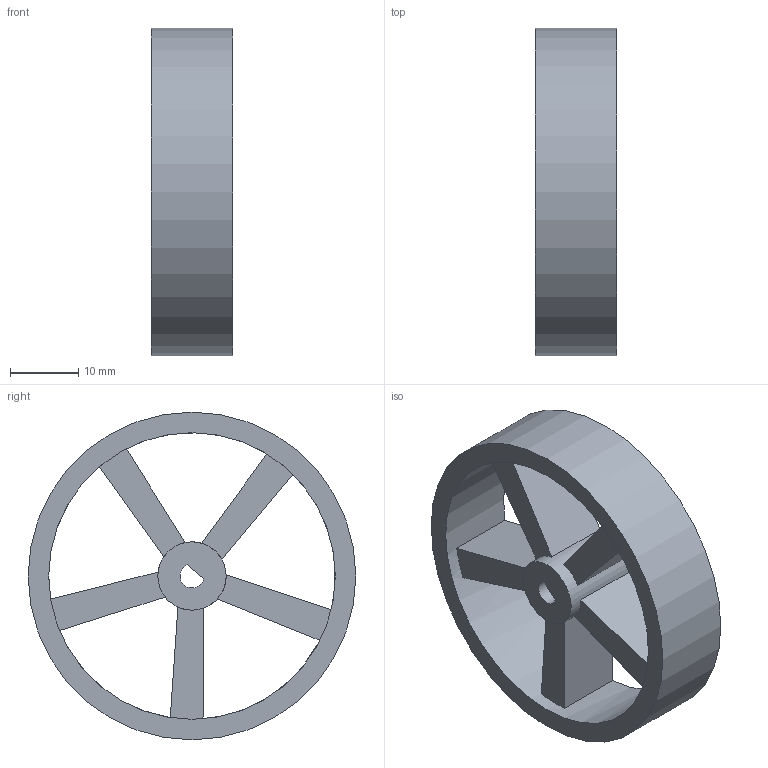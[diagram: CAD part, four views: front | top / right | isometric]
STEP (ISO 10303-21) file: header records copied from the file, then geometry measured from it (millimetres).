
FILE_DESCRIPTION(/* description */ (''),/* implementation_level */ '2;1');
FILE_NAME(/* name */ 'rueda1.step',/* time_stamp */ '2026-03-09T00:25:31+01:00',/* author */ (''),/* organization */ (''),/* preprocessor_version */ 'ST-DEVELOPER v20.1',/* originating_system */ 'Autodesk Translation Framework v14.24.0.0',/* authorisation */ '');
FILE_SCHEMA (('AUTOMOTIVE_DESIGN { 1 0 10303 214 3 1 1 }'));
Length unit declared in the file: millimetre
Products named in the file (1): Flanders (v3~recovered)
Bounding box: 12 x 48 x 48 mm (x, y, z)
Volume: 9401.7 mm3; surface area: 6765 mm2
Topology: 1 solids, 1 shells, 23 faces, 75 edges, 50 vertices
Faces by surface type: plane 19, cylinder 4
Full cylindrical faces by diameter (mm): 10 x1, 42 x1, 48 x1
Entity records: 918 total; most frequent: DIRECTION 151, ORIENTED_EDGE 150, CARTESIAN_POINT 149, EDGE_CURVE 75, AXIS2_PLACEMENT_3D 52, VERTEX_POINT 50, LINE 47, VECTOR 47
